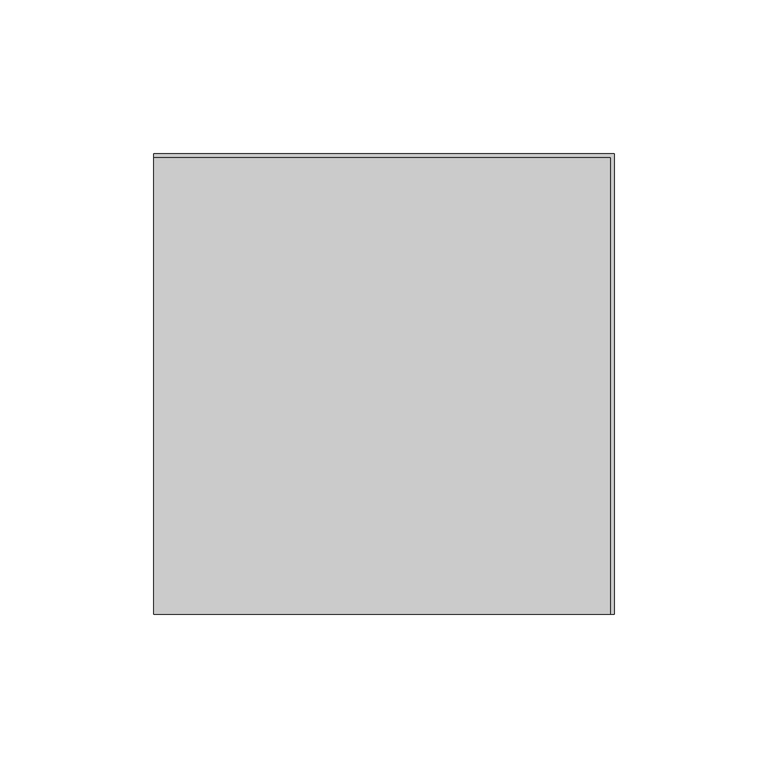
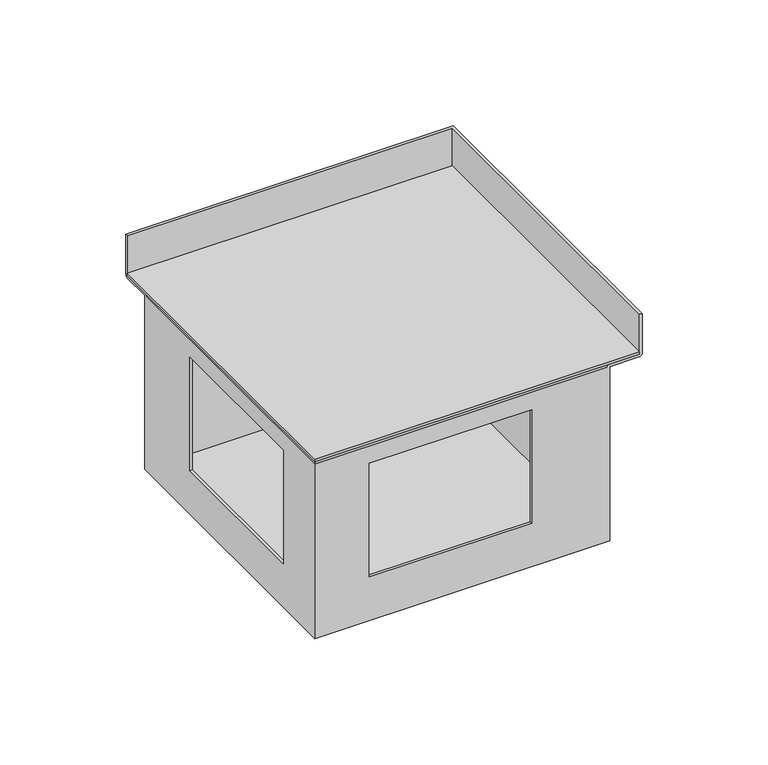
"""IFC4 building model written with IfcOpenShell, lengths in millimetres: proxy geometry, TECHNO_Угловой элемент_KVU : 150_105_90°."""

from ifc_helpers import new_model, si_unit, frame, origin, place, context, project, spatial, polyline, circle_curve, ellipse_curve, outline, extrude, source, transform, mapped, element, save
from ifc_brep_helpers import plane_surface, cylinder_surface, advanced_brep


def mechanical_equipment_6c30b403(model_context):
    return source(origin(), model_context, "Body", "SolidModel", [
        extrude(outline(polyline([(0.0, 73.8), (148.8, 73.8), (148.8, -75.0), (0.0, -75.0), (0.0, 73.8)])), frame((0.0, 0.0, -19.3), z_axis=(0.0, 0.0, 1.0), x_axis=(1.0, 0.0, 0.0)), (0.0, 0.0, 1.0), 1.2),
        advanced_brep(
        [(1.2, 59.0, -103.8), (1.2, -73.8, -103.8), (134.0, -73.8, -103.8), (134.0, 59.0, -103.8), (0.0, 60.2, -105.0), (135.2, 60.2, -105.0), (135.2, -75.0, -105.0), (0.0, -75.0, -105.0), (0.0, 60.2, -20.5), (0.0, -75.0, -20.5), (0.0, 59.0, -20.5), (0.0, 60.2, -19.3), (0.0, 73.8, -19.3), (0.0, 73.8, 0.0), (0.0, 75.0, 0.0), (0.0, 75.0, -19.3), (0.0, 73.8, -20.5), (0.0, -50.0, -28.8), (0.0, -50.0, -83.8), (0.0, 24.4, -83.8), (0.0, 24.4, -28.8), (135.2, -75.0, -20.5), (148.8, -75.0, -20.5), (150.0, -75.0, -19.3), (150.0, -75.0, 0.0), (148.8, -75.0, 0.0), (148.8, -75.0, -19.3), (135.2, -75.0, -19.3), (134.0, -75.0, -20.5), (25.0, -75.0, -83.8), (25.0, -75.0, -28.8), (99.4, -75.0, -28.8), (99.4, -75.0, -83.8), (135.2, 60.2, -20.5), (1.2, 60.2, -19.3), (1.2, -73.8, -19.3), (135.2, -73.8, -19.3), (148.8, 73.8, -19.3), (135.2, -59.0, -19.3), (16.0, -59.0, -19.3), (16.0, 60.2, -19.3), (135.2, 60.2, -19.3), (16.0, -59.0, -20.5), (16.0, 59.0, -20.5), (134.0, -59.0, -20.5), (134.0, -73.8, -20.5), (1.2, -73.8, -20.5), (1.2, 59.0, -20.5), (1.2, -50.0, -83.8), (1.2, -50.0, -28.8), (1.2, 24.4, -28.8), (1.2, 24.4, -83.8), (25.0, -73.8, -28.8), (25.0, -73.8, -83.8), (99.4, -73.8, -83.8), (99.4, -73.8, -28.8), (150.0, 75.0, -19.3), (150.0, 75.0, 0.0), (148.8, 73.8, 0.0), (148.8, 73.8, -20.5), (134.0, 59.0, -20.5)],
        [
            (0, 1),
            (1, 2),
            (2, 3),
            (3, 0),
            (4, 5),
            (5, 6),
            (6, 7),
            (7, 4),
            (8, 4),
            (7, 9),
            (9, 10),
            (10, 11, circle_curve(frame((0.0, 60.2, -20.5), z_axis=(-1.0, 0.0, 0.0), x_axis=(0.0, -1.0, 0.0)), 1.2)),
            (11, 12),
            (12, 13),
            (13, 14),
            (14, 15),
            (15, 16, circle_curve(frame((0.0, 73.8, -19.3), z_axis=(-1.0, 0.0, 0.0), x_axis=(0.0, -1.0, 0.0)), 1.2)),
            (16, 8),
            (17, 18),
            (18, 19),
            (19, 20),
            (20, 17),
            (6, 21),
            (21, 22),
            (22, 23, circle_curve(frame((148.8, -75.0, -19.3), z_axis=(0.0, -1.0, 0.0), x_axis=(-1.0, 0.0, 0.0)), 1.2)),
            (23, 24),
            (24, 25),
            (25, 26),
            (26, 27),
            (27, 28, circle_curve(frame((135.2, -75.0, -20.5), z_axis=(0.0, -1.0, 0.0), x_axis=(-1.0, 0.0, 0.0)), 1.2)),
            (28, 9),
            (29, 30),
            (30, 31),
            (31, 32),
            (32, 29),
            (8, 33),
            (33, 5),
            (33, 21),
            (34, 35),
            (35, 36),
            (36, 27),
            (26, 37),
            (37, 12),
            (11, 34),
            (38, 39),
            (39, 40),
            (40, 41),
            (41, 38),
            (39, 42),
            (42, 43),
            (43, 40, circle_curve(frame((16.0, 60.2, -20.5), z_axis=(-1.0, 0.0, 0.0), x_axis=(0.0, -1.0, 0.0)), 1.2)),
            (38, 44, circle_curve(frame((135.2, -59.0, -20.5), z_axis=(0.0, -1.0, 0.0), x_axis=(-1.0, 0.0, 0.0)), 1.2)),
            (44, 42),
            (44, 45),
            (45, 46),
            (46, 47),
            (47, 43),
            (46, 1),
            (0, 47),
            (48, 49),
            (49, 50),
            (50, 51),
            (51, 48),
            (45, 2),
            (52, 53),
            (53, 54),
            (54, 55),
            (55, 52),
            (34, 10, ellipse_curve(frame((1.2, 60.2, -20.5), z_axis=(0.7071067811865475, -0.7071067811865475, 0.0), x_axis=(0.7071067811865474, 0.7071067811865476, 0.0)), 1.6970563, 1.2)),
            (9, 35, ellipse_curve(frame((1.2, -73.8, -20.5), z_axis=(-0.7071067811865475, 0.7071067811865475, 0.0), x_axis=(0.7071067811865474, 0.7071067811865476, 0.0)), 1.6970563, 1.2)),
            (28, 36, ellipse_curve(frame((135.2, -73.8, -20.5), z_axis=(-0.7071067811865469, 0.707106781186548, 0.0), x_axis=(-0.7071067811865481, -0.7071067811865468, 0.0)), 1.6970563, 1.2)),
            (23, 56),
            (56, 57),
            (57, 24),
            (57, 14),
            (13, 58),
            (58, 25),
            (58, 37),
            (16, 59),
            (59, 22),
            (59, 56, ellipse_curve(frame((148.8, 73.8, -19.3), z_axis=(0.7071067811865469, -0.707106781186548, 0.0), x_axis=(-0.7071067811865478, -0.707106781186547, 0.0)), 1.6970563, 1.2)),
            (56, 15),
            (41, 60, ellipse_curve(frame((135.2, 60.2, -20.5), z_axis=(0.7071067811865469, -0.707106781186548, 0.0), x_axis=(-0.7071067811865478, -0.707106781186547, 0.0)), 1.6970563, 1.2)),
            (60, 44),
            (60, 3),
            (43, 60),
            (48, 18),
            (17, 49),
            (51, 19),
            (50, 20),
            (52, 30),
            (29, 53),
            (55, 31),
            (54, 32),
        ],
        [
            plane_surface(frame((0.0, 59.0, -103.8), z_axis=(0.0, 0.0, 1.0), x_axis=(0.0, -1.0, 0.0))),
            plane_surface(frame((0.0, 59.0, -105.0), z_axis=(0.0, 0.0, -1.0), x_axis=(0.0, 1.0, 0.0))),
            plane_surface(frame((0.0, 59.0, -103.8), z_axis=(-1.0, 0.0, 0.0), x_axis=(0.0, 0.0, -1.0))),
            plane_surface(frame((0.0, -75.0, -103.8), z_axis=(0.0, -1.0, 0.0), x_axis=(0.0, 0.0, -1.0))),
            plane_surface(frame((0.0, 60.2, -105.0), z_axis=(0.0, 1.0, 0.0), x_axis=(0.0, 0.0, -1.0))),
            plane_surface(frame((135.2, -75.0, -105.0), z_axis=(1.0, 0.0, 0.0), x_axis=(0.0, 0.0, -1.0))),
            plane_surface(frame((1.2, 60.2, -19.3), z_axis=(0.0, 0.0, 1.0), x_axis=(0.0, -1.0, 0.0))),
            plane_surface(frame((16.0, 60.2, -19.3), z_axis=(1.0, 0.0, 0.0), x_axis=(0.0, -1.0, 0.0))),
            plane_surface(frame((16.0, -59.0, -19.3), z_axis=(0.0, 1.0, 0.0), x_axis=(1.0, 0.0, 0.0))),
            plane_surface(frame((16.0, 60.2, -20.5), z_axis=(0.0, 0.0, -1.0), x_axis=(0.0, -1.0, 0.0))),
            plane_surface(frame((1.2, 60.2, -20.5), z_axis=(1.0, 0.0, 0.0), x_axis=(0.0, -1.0, 0.0))),
            plane_surface(frame((1.2, -73.8, -20.5), z_axis=(0.0, 1.0, 0.0), x_axis=(1.0, 0.0, 0.0))),
            cylinder_surface(frame((1.2, 60.2, -20.5), z_axis=(0.0, 1.0, 0.0), x_axis=(-1.0, 0.0, 0.0)), 1.2),
            cylinder_surface(frame((0.0, -73.8, -20.5), z_axis=(-1.0, 0.0, 0.0), x_axis=(0.0, -1.0, 0.0)), 1.2),
            plane_surface(frame((150.0, -75.0, -19.3), z_axis=(1.0, 0.0, 0.0), x_axis=(0.0, 1.0, 0.0))),
            plane_surface(frame((150.0, -75.0, 0.0), z_axis=(0.0, 0.0, 1.0), x_axis=(0.0, 1.0, 0.0))),
            plane_surface(frame((148.8, -75.0, 0.0), z_axis=(-1.0, 0.0, 0.0), x_axis=(0.0, 1.0, 0.0))),
            plane_surface(frame((135.2, -75.0, -20.5), z_axis=(0.0, 0.0, -1.0), x_axis=(0.0, 1.0, 0.0))),
            cylinder_surface(frame((148.8, -75.0, -19.3), z_axis=(0.0, -1.0, 0.0), x_axis=(-1.0, 0.0, 0.0)), 1.2),
            plane_surface(frame((150.0, 75.0, -19.3), z_axis=(0.0, 1.0, 0.0), x_axis=(-1.0, 0.0, 0.0))),
            plane_surface(frame((148.8, 73.8, 0.0), z_axis=(0.0, -1.0, 0.0), x_axis=(-1.0, 0.0, 0.0))),
            cylinder_surface(frame((75.0, 73.8, -19.3), z_axis=(1.0, 0.0, 0.0), x_axis=(0.0, -1.0, 0.0)), 1.2),
            cylinder_surface(frame((135.2, -75.0, -20.5), z_axis=(0.0, -1.0, 0.0), x_axis=(-1.0, 0.0, 0.0)), 1.2),
            plane_surface(frame((134.0, -75.0, -20.5), z_axis=(-1.0, 0.0, 0.0), x_axis=(0.0, 1.0, 0.0))),
            cylinder_surface(frame((75.0, 60.2, -20.5), z_axis=(1.0, 0.0, 0.0), x_axis=(0.0, -1.0, 0.0)), 1.2),
            plane_surface(frame((134.0, 59.0, -20.5), z_axis=(0.0, -1.0, 0.0), x_axis=(-1.0, 0.0, 0.0))),
            plane_surface(frame((1.2, -50.0, -28.8), z_axis=(0.0, 1.0, 0.0), x_axis=(-1.0, 0.0, 0.0))),
            plane_surface(frame((1.2, -50.0, -83.8), z_axis=(0.0, 0.0, 1.0), x_axis=(-1.0, 0.0, 0.0))),
            plane_surface(frame((1.2, 24.4, -83.8), z_axis=(0.0, -1.0, 0.0), x_axis=(-1.0, 0.0, 0.0))),
            plane_surface(frame((1.2, 24.4, -28.8), z_axis=(0.0, 0.0, -1.0), x_axis=(-1.0, 0.0, 0.0))),
            plane_surface(frame((25.0, -73.8, -83.8), z_axis=(1.0, 0.0, 0.0), x_axis=(0.0, -1.0, 0.0))),
            plane_surface(frame((25.0, -73.8, -28.8), z_axis=(0.0, 0.0, -1.0), x_axis=(0.0, -1.0, 0.0))),
            plane_surface(frame((99.4, -73.8, -28.8), z_axis=(-1.0, 0.0, 0.0), x_axis=(0.0, -1.0, 0.0))),
            plane_surface(frame((99.4, -73.8, -83.8), z_axis=(0.0, 0.0, 1.0), x_axis=(0.0, -1.0, 0.0))),
        ],
        [
            (0, [[1, 2, 3, 4]]),
            (1, [[5, 6, 7, 8]]),
            (2, [[9, -8, 10, 11, 12, 13, 14, 15, 16, 17, 18], [19, 20, 21, 22]]),
            (3, [[23, 24, 25, 26, 27, 28, 29, 30, 31, -10, -7], [32, 33, 34, 35]]),
            (4, [[-9, 36, 37, -5]]),
            (5, [[-23, -6, -37, 38]]),
            (6, [[39, 40, 41, -29, 42, 43, -13, 44], [45, 46, 47, 48]]),
            (7, [[-46, 49, 50, 51]]),
            (8, [[-45, 52, 53, -49]]),
            (9, [[-50, -53, 54, 55, 56, 57]]),
            (10, [[58, -1, 59, -56], [60, 61, 62, 63]]),
            (11, [[-58, -55, 64, -2], [65, 66, 67, 68]]),
            (12, [[-39, 69, -11, 70]]),
            (13, [[-40, -70, -31, 71]]),
            (14, [[-26, 72, 73, 74]]),
            (15, [[-27, -74, 75, -15, 76, 77]]),
            (16, [[-28, -77, 78, -42]]),
            (17, [[-24, -38, -36, -18, 79, 80]]),
            (18, [[-25, -80, 81, -72]]),
            (19, [[-73, 82, -16, -75]]),
            (20, [[-76, -14, -43, -78]]),
            (21, [[-79, -17, -82, -81]]),
            (22, [[-30, -41, -71]]),
            (22, [[83, 84, -52, -48]]),
            (23, [[85, -3, -64, -54, -84]]),
            (24, [[-12, -69, -44]]),
            (24, [[-83, -47, -51, 86]]),
            (25, [[-85, -86, -57, -59, -4]]),
            (26, [[87, -19, 88, -60]]),
            (27, [[-87, -63, 89, -20]]),
            (28, [[-89, -62, 90, -21]]),
            (29, [[-88, -22, -90, -61]]),
            (30, [[91, -32, 92, -65]]),
            (31, [[-91, -68, 93, -33]]),
            (32, [[-93, -67, 94, -34]]),
            (33, [[-92, -35, -94, -66]]),
        ],
    ),
    ])


if __name__ == "__main__":
    model = new_model("IFC4")
    model_context = context("Model", 3, world=origin())
    ifc_project = project(units=[si_unit("LENGTHUNIT", "METRE", prefix="MILLI")], contexts=[model_context])
    site = spatial("IfcSite", under=ifc_project)
    building = spatial("IfcBuilding", under=site)
    placement = place(None, origin())
    mechanical_equipment_shape = mechanical_equipment_6c30b403(model_context)
    element("IfcBuildingElementProxy", 1, Name="TECHNO_Угловой элемент_KVU : 150_105_90°", ObjectType="TECHNO_Угловой элемент_KVU : 150_105_90°", at=placement, inside=building, context=model_context, shape_type="MappedRepresentation", body=[
        mapped(mechanical_equipment_shape, transform((0.0, 0.0, 0.0), x_axis=(1.0, 0.0, 0.0), y_axis=(0.0, 1.0, 0.0), z_axis=(0.0, 0.0, 1.0))),
    ])
    save(model, "model.ifc")
